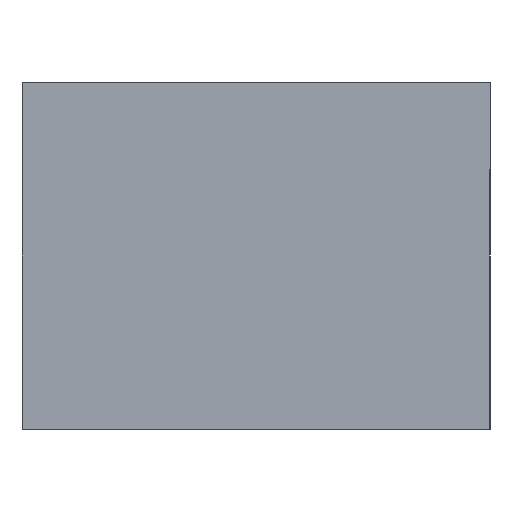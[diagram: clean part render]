
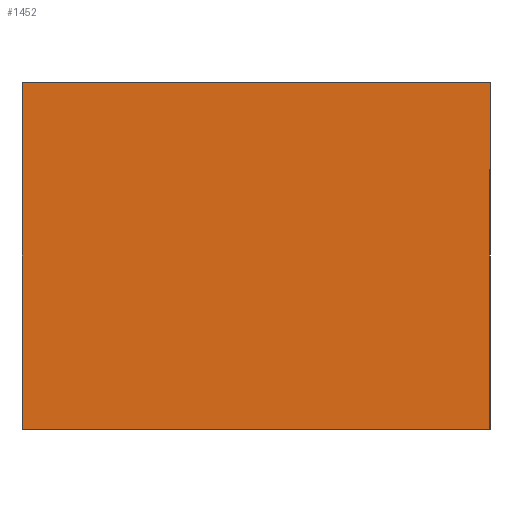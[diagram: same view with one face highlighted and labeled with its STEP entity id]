
A CAD part, front view. The second image highlights one B-rep face of the part: STEP entity #1452.
In plain terms, the highlighted planar face has unit normal (0, -1, 0).
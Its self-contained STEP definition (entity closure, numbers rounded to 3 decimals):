
#32 = VERTEX_POINT ( 'NONE', #69 ) ;
#69 = CARTESIAN_POINT ( 'NONE',  ( 42.5, 0., -31.5 ) ) ;
#336 = EDGE_CURVE ( 'NONE', #342, #32, #1023, .T. ) ;
#342 = VERTEX_POINT ( 'NONE', #2311 ) ;
#667 = DIRECTION ( 'NONE',  ( 0., 0., 1. ) ) ;
#805 = EDGE_CURVE ( 'NONE', #847, #342, #1325, .T. ) ;
#837 = DIRECTION ( 'NONE',  ( 0., 0., -1. ) ) ;
#847 = VERTEX_POINT ( 'NONE', #1899 ) ;
#855 = CARTESIAN_POINT ( 'NONE',  ( -42.5, 0., -31.5 ) ) ;
#861 = FACE_OUTER_BOUND ( 'NONE', #1079, .T. ) ;
#955 = CARTESIAN_POINT ( 'NONE',  ( -42.5, 0., 31.5 ) ) ;
#998 = ORIENTED_EDGE ( 'NONE', *, *, #805, .F. ) ;
#1016 = CARTESIAN_POINT ( 'NONE',  ( 42.5, 0., -31.5 ) ) ;
#1023 = LINE ( 'NONE', #1016, #2134 ) ;
#1051 = DIRECTION ( 'NONE',  ( 0., 0., 1. ) ) ;
#1079 = EDGE_LOOP ( 'NONE', ( #1398, #998, #1427, #2346 ) ) ;
#1107 = CARTESIAN_POINT ( 'NONE',  ( -42.5, 0., -31.5 ) ) ;
#1186 = VECTOR ( 'NONE', #1373, 1000. ) ;
#1218 = PLANE ( 'NONE',  #1221 ) ;
#1221 = AXIS2_PLACEMENT_3D ( 'NONE', #2161, #1785, #667 ) ;
#1325 = LINE ( 'NONE', #955, #1451 ) ;
#1338 = DIRECTION ( 'NONE',  ( 1., 0., 0. ) ) ;
#1373 = DIRECTION ( 'NONE',  ( -1., 0., 0. ) ) ;
#1388 = VECTOR ( 'NONE', #1051, 1000. ) ;
#1398 = ORIENTED_EDGE ( 'NONE', *, *, #336, .F. ) ;
#1427 = ORIENTED_EDGE ( 'NONE', *, *, #2011, .F. ) ;
#1451 = VECTOR ( 'NONE', #1338, 1000. ) ;
#1452 = ADVANCED_FACE ( 'NONE', ( #861 ), #1218, .F. ) ;
#1782 = EDGE_CURVE ( 'NONE', #32, #2347, #2123, .T. ) ;
#1785 = DIRECTION ( 'NONE',  ( 0., 1., 0. ) ) ;
#1899 = CARTESIAN_POINT ( 'NONE',  ( -42.5, 0., 31.5 ) ) ;
#2011 = EDGE_CURVE ( 'NONE', #2347, #847, #2329, .T. ) ;
#2121 = CARTESIAN_POINT ( 'NONE',  ( -42.5, 0., -31.5 ) ) ;
#2123 = LINE ( 'NONE', #2121, #1186 ) ;
#2134 = VECTOR ( 'NONE', #837, 1000. ) ;
#2161 = CARTESIAN_POINT ( 'NONE',  ( 0., 0., 0. ) ) ;
#2311 = CARTESIAN_POINT ( 'NONE',  ( 42.5, 0., 31.5 ) ) ;
#2329 = LINE ( 'NONE', #855, #1388 ) ;
#2346 = ORIENTED_EDGE ( 'NONE', *, *, #1782, .F. ) ;
#2347 = VERTEX_POINT ( 'NONE', #1107 ) ;
